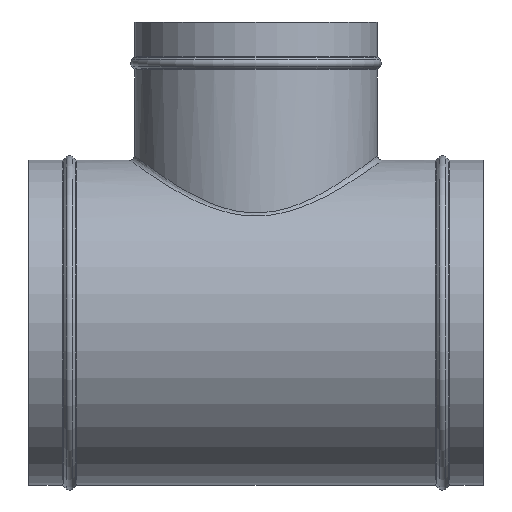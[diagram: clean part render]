
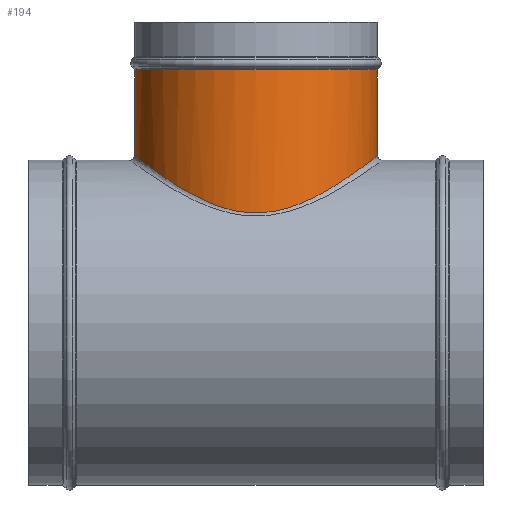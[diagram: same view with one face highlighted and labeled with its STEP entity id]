
A CAD part, top view. The second image highlights one B-rep face of the part: STEP entity #194.
In plain terms, the highlighted cylindrical face has radius 102 mm (diameter 204 mm), a partial arc.
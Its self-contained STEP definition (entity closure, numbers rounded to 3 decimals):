
#128=CYLINDRICAL_SURFACE('',#1366,102.);
#148=(
BOUNDED_CURVE()
B_SPLINE_CURVE(3,(#2060,#2061,#2062,#2063,#2064,#2065,#2066,#2067,#2068,
#2069,#2070,#2071,#2072,#2073,#2074,#2075,#2076,#2077,#2078,#2079,#2080,
#2081,#2082,#2083,#2084,#2085,#2086,#2087,#2088,#2089,#2090),
 .UNSPECIFIED.,.F.,.F.)
B_SPLINE_CURVE_WITH_KNOTS((4,1,1,1,1,1,1,1,1,1,1,1,1,1,1,1,1,1,1,1,1,1,1,
1,1,1,1,1,4),(0.,0.041,0.084,0.129,0.178,
0.232,0.287,0.339,0.386,0.427,
0.465,0.501,0.538,0.577,0.622,
0.671,0.718,0.758,0.794,0.825,
0.854,0.879,0.902,0.923,0.942,
0.958,0.973,0.987,1.),.UNSPECIFIED.)
CURVE()
GEOMETRIC_REPRESENTATION_ITEM()
RATIONAL_B_SPLINE_CURVE((1.172,1.172,1.172,
1.172,1.172,1.172,1.172,1.172,
1.172,1.172,1.172,1.172,1.172,
1.172,1.172,1.172,1.172,1.172,
1.172,1.172,1.172,1.172,1.172,
1.172,1.172,1.172,1.172,1.172,
1.172,1.172,1.172))
REPRESENTATION_ITEM('')
);
#194=ADVANCED_FACE('',(#307),#128,.T.);
#307=FACE_OUTER_BOUND('',#393,.T.);
#393=EDGE_LOOP('',(#601,#602,#603,#604));
#481=LINE('',#2056,#527);
#482=LINE('',#2058,#528);
#527=VECTOR('',#1603,1.);
#528=VECTOR('',#1604,1.);
#601=ORIENTED_EDGE('',*,*,#1051,.T.);
#602=ORIENTED_EDGE('',*,*,#1050,.F.);
#603=ORIENTED_EDGE('',*,*,#1052,.T.);
#604=ORIENTED_EDGE('',*,*,#1053,.F.);
#945=VERTEX_POINT('',#2049);
#946=VERTEX_POINT('',#2051);
#947=VERTEX_POINT('',#2057);
#948=VERTEX_POINT('',#2059);
#1050=EDGE_CURVE('',#946,#945,#1230,.T.);
#1051=EDGE_CURVE('',#947,#945,#481,.T.);
#1052=EDGE_CURVE('',#946,#948,#482,.T.);
#1053=EDGE_CURVE('',#947,#948,#148,.T.);
#1230=CIRCLE('',#1364,102.);
#1364=AXIS2_PLACEMENT_3D('',#2054,#1599,#1600);
#1366=AXIS2_PLACEMENT_3D('',#2091,#1605,#1606);
#1599=DIRECTION('',(0.,1.,0.));
#1600=DIRECTION('',(-1.,0.,0.));
#1603=DIRECTION('',(0.,1.,0.));
#1604=DIRECTION('',(0.,-1.,0.));
#1605=DIRECTION('',(0.,1.,0.));
#1606=DIRECTION('',(-1.,0.,0.));
#2049=CARTESIAN_POINT('',(102.,156.978,0.));
#2051=CARTESIAN_POINT('',(-102.,156.978,0.));
#2054=CARTESIAN_POINT('',(0.,156.978,0.));
#2056=CARTESIAN_POINT('',(102.,85.056,0.));
#2057=CARTESIAN_POINT('',(102.,85.056,0.));
#2058=CARTESIAN_POINT('',(-102.,156.978,0.));
#2059=CARTESIAN_POINT('',(-102.,85.056,0.));
#2060=CARTESIAN_POINT('',(102.,85.056,0.));
#2061=CARTESIAN_POINT('',(102.,85.056,4.637));
#2062=CARTESIAN_POINT('',(101.35,84.546,14.11));
#2063=CARTESIAN_POINT('',(98.374,82.227,28.245));
#2064=CARTESIAN_POINT('',(93.214,78.277,42.347));
#2065=CARTESIAN_POINT('',(85.651,72.669,56.168));
#2066=CARTESIAN_POINT('',(75.611,65.603,69.143));
#2067=CARTESIAN_POINT('',(63.547,57.807,80.349));
#2068=CARTESIAN_POINT('',(50.421,50.392,89.104));
#2069=CARTESIAN_POINT('',(37.214,44.295,95.308));
#2070=CARTESIAN_POINT('',(24.381,39.916,99.322));
#2071=CARTESIAN_POINT('',(11.913,37.316,101.551));
#2072=CARTESIAN_POINT('',(-0.421,36.482,102.243));
#2073=CARTESIAN_POINT('',(-12.934,37.448,101.44));
#2074=CARTESIAN_POINT('',(-26.016,40.346,98.947));
#2075=CARTESIAN_POINT('',(-39.547,45.236,94.413));
#2076=CARTESIAN_POINT('',(-52.546,51.536,87.832));
#2077=CARTESIAN_POINT('',(-63.877,58.074,79.887));
#2078=CARTESIAN_POINT('',(-73.076,63.961,71.479));
#2079=CARTESIAN_POINT('',(-80.369,68.942,63.101));
#2080=CARTESIAN_POINT('',(-86.148,73.065,54.89));
#2081=CARTESIAN_POINT('',(-90.677,76.394,46.976));
#2082=CARTESIAN_POINT('',(-94.168,79.016,39.461));
#2083=CARTESIAN_POINT('',(-96.806,81.027,32.401));
#2084=CARTESIAN_POINT('',(-98.747,82.522,25.831));
#2085=CARTESIAN_POINT('',(-100.124,83.59,19.77));
#2086=CARTESIAN_POINT('',(-101.053,84.315,14.207));
#2087=CARTESIAN_POINT('',(-101.632,84.767,9.108));
#2088=CARTESIAN_POINT('',(-101.937,85.007,4.425));
#2089=CARTESIAN_POINT('',(-102.,85.056,1.434));
#2090=CARTESIAN_POINT('',(-102.,85.056,0.));
#2091=CARTESIAN_POINT('',(0.,-68.069,0.));
